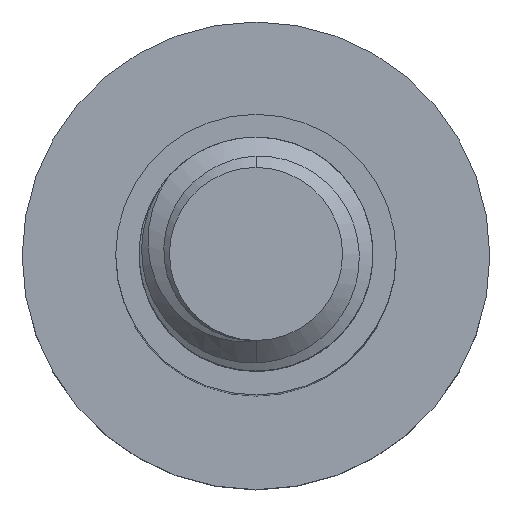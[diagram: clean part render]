
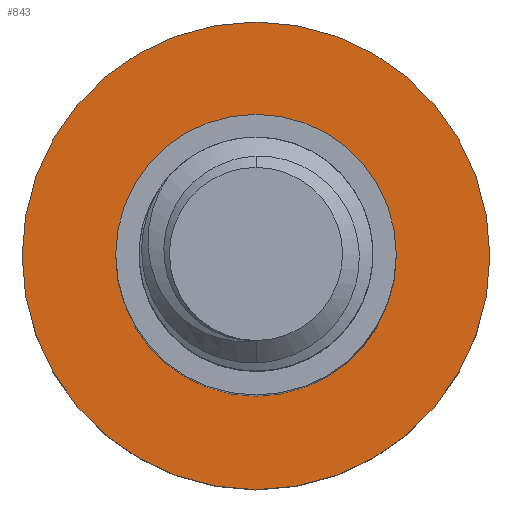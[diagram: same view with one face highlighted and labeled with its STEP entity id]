
A CAD part, top view. The second image highlights one B-rep face of the part: STEP entity #843.
In plain terms, the highlighted planar face has unit normal (0, 0, 1).
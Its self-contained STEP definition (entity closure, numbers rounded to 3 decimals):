
#29 = DIRECTION ( 'NONE',  ( -1., 0., 0. ) ) ;
#70 = VERTEX_POINT ( 'NONE', #1574 ) ;
#148 = CIRCLE ( 'NONE', #3361, 10. ) ;
#238 = DIRECTION ( 'NONE',  ( -1., 0., 0. ) ) ;
#270 = DIRECTION ( 'NONE',  ( -1., 0., 0. ) ) ;
#287 = DIRECTION ( 'NONE',  ( 0., 0., -1. ) ) ;
#292 = CARTESIAN_POINT ( 'NONE',  ( 0., 0., -30. ) ) ;
#303 = CARTESIAN_POINT ( 'NONE',  ( 0., 0., -30. ) ) ;
#316 = AXIS2_PLACEMENT_3D ( 'NONE', #292, #3540, #238 ) ;
#672 = ORIENTED_EDGE ( 'NONE', *, *, #2842, .T. ) ;
#788 = DIRECTION ( 'NONE',  ( -1., 0., 0. ) ) ;
#843 = ADVANCED_FACE ( 'NONE', ( #1204, #1506 ), #2330, .F. ) ;
#939 = DIRECTION ( 'NONE',  ( 0., 0., -1. ) ) ;
#1036 = CARTESIAN_POINT ( 'NONE',  ( 10., 0., -30. ) ) ;
#1204 = FACE_BOUND ( 'NONE', #2364, .T. ) ;
#1232 = CIRCLE ( 'NONE', #316, 6. ) ;
#1387 = DIRECTION ( 'NONE',  ( 0., 0., -1. ) ) ;
#1499 = EDGE_LOOP ( 'NONE', ( #2798, #2914 ) ) ;
#1506 = FACE_OUTER_BOUND ( 'NONE', #1499, .T. ) ;
#1555 = AXIS2_PLACEMENT_3D ( 'NONE', #2879, #939, #3164 ) ;
#1574 = CARTESIAN_POINT ( 'NONE',  ( -6., 0., -30. ) ) ;
#1646 = VERTEX_POINT ( 'NONE', #2166 ) ;
#1990 = VERTEX_POINT ( 'NONE', #2730 ) ;
#2166 = CARTESIAN_POINT ( 'NONE',  ( -10., 0., -30. ) ) ;
#2330 = PLANE ( 'NONE',  #1555 ) ;
#2364 = EDGE_LOOP ( 'NONE', ( #672, #2379 ) ) ;
#2379 = ORIENTED_EDGE ( 'NONE', *, *, #3216, .T. ) ;
#2430 = AXIS2_PLACEMENT_3D ( 'NONE', #3023, #287, #270 ) ;
#2528 = VERTEX_POINT ( 'NONE', #1036 ) ;
#2552 = AXIS2_PLACEMENT_3D ( 'NONE', #303, #1387, #29 ) ;
#2620 = CIRCLE ( 'NONE', #2552, 10. ) ;
#2702 = DIRECTION ( 'NONE',  ( 0., 0., -1. ) ) ;
#2729 = CIRCLE ( 'NONE', #2430, 6. ) ;
#2730 = CARTESIAN_POINT ( 'NONE',  ( 6., 0., -30. ) ) ;
#2798 = ORIENTED_EDGE ( 'NONE', *, *, #2816, .F. ) ;
#2816 = EDGE_CURVE ( 'NONE', #2528, #1646, #148, .T. ) ;
#2842 = EDGE_CURVE ( 'NONE', #70, #1990, #1232, .T. ) ;
#2879 = CARTESIAN_POINT ( 'NONE',  ( 0., 0., -30. ) ) ;
#2914 = ORIENTED_EDGE ( 'NONE', *, *, #3409, .F. ) ;
#3023 = CARTESIAN_POINT ( 'NONE',  ( 0., 0., -30. ) ) ;
#3164 = DIRECTION ( 'NONE',  ( -1., 0., 0. ) ) ;
#3216 = EDGE_CURVE ( 'NONE', #1990, #70, #2729, .T. ) ;
#3361 = AXIS2_PLACEMENT_3D ( 'NONE', #3522, #2702, #788 ) ;
#3409 = EDGE_CURVE ( 'NONE', #1646, #2528, #2620, .T. ) ;
#3522 = CARTESIAN_POINT ( 'NONE',  ( 0., 0., -30. ) ) ;
#3540 = DIRECTION ( 'NONE',  ( 0., 0., -1. ) ) ;
